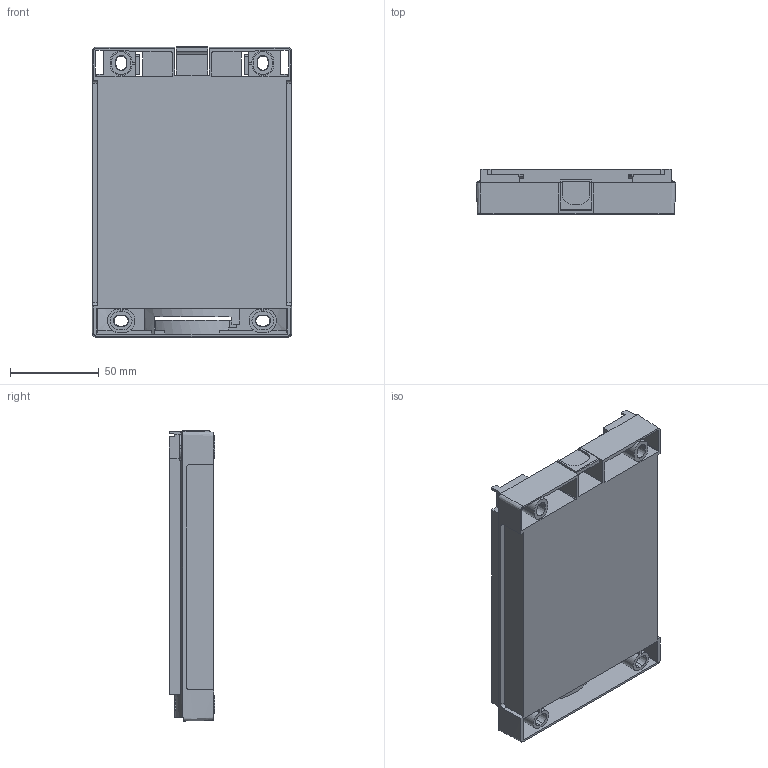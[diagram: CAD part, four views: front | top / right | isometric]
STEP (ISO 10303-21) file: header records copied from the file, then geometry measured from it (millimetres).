
FILE_DESCRIPTION (( 'STEP AP203' ), '1' );
FILE_NAME ('CAD_STP_E100_0117.STEP', '2024-04-22T08:00:15', ( '' ), ( '' ), 'SwSTEP 2.0', 'SolidWorks 2022', '' );
FILE_SCHEMA (( 'CONFIG_CONTROL_DESIGN' ));
Length unit declared in the file: millimetre
Products named in the file (1): CAD_STP_E100_0117
Bounding box: 112 x 25.55 x 163.27 mm (x, y, z)
Volume: 335390 mm3; surface area: 79905.3 mm2
Topology: 1 solids, 1 shells, 1191 faces, 3360 edges, 2235 vertices
Faces by surface type: plane 980, cylinder 178, cone 30, bspline 3
Entity records: 39226 total; most frequent: CARTESIAN_POINT 7707, ORIENTED_EDGE 6720, DIRECTION 6112, EDGE_CURVE 3360, LINE 2892, VECTOR 2892, VERTEX_POINT 2235, AXIS2_PLACEMENT_3D 1610
